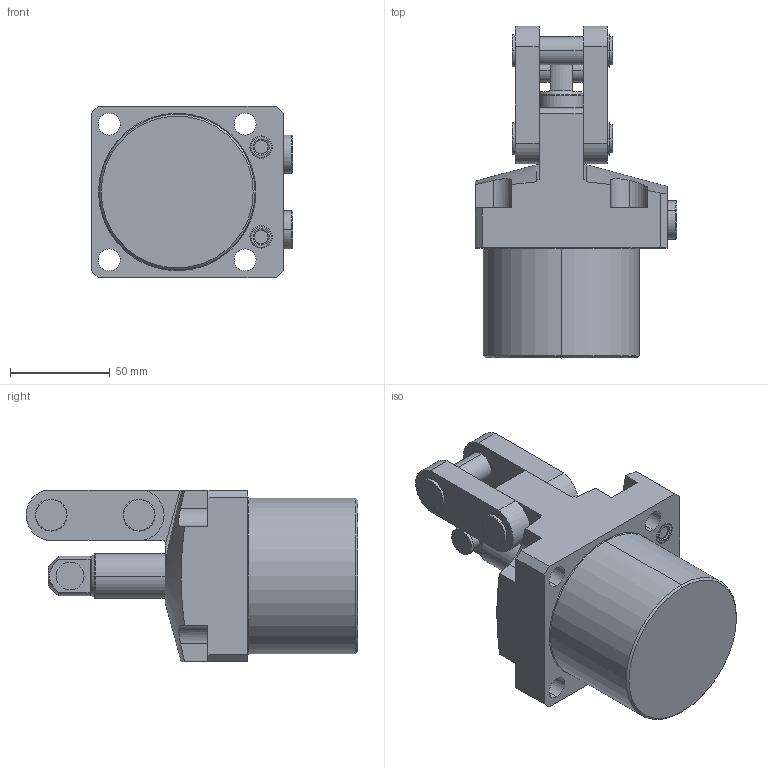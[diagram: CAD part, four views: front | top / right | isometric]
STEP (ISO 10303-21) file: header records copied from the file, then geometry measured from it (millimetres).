
FILE_DESCRIPTION(/* description */ (''),/* implementation_level */ '2;1');
FILE_NAME(/* name */ 'TPC16-L.stp',/* time_stamp */ '2025-01-05T10:27:21+08:00',/* author */ (''),/* organization */ (''),/* preprocessor_version */ 'ST-DEVELOPER v16.7',/* originating_system */ 'SIEMENS PLM Software NX 12.0',/* authorisation */ '');
FILE_SCHEMA (('AUTOMOTIVE_DESIGN { 1 0 10303 214 3 1 1 1 }'));
Length unit declared in the file: millimetre
Products named in the file (5): TPC16-L-01; TPC16-L-02; TPC16-L-03; TPC16-L-04; TPC16-L_stp
Assembly tree (5 placements, depth 2):
  TPC16-L_stp
    TPC16-L-04  x2
    TPC16-L-03
    TPC16-L-02
    TPC16-L-01
Bounding box: 100.8 x 166 x 86 mm (x, y, z)
Volume: 602682.4 mm3; surface area: 72405.1 mm2
Topology: 5 solids, 7 shells, 280 faces, 661 edges, 420 vertices
Faces by surface type: cylinder 116, plane 111, torus 34, cone 19
Entity records: 7803 total; most frequent: CARTESIAN_POINT 1461, DIRECTION 1401, ORIENTED_EDGE 1230, EDGE_CURVE 615, AXIS2_PLACEMENT_3D 558, VERTEX_POINT 392, EDGE_LOOP 301, CIRCLE 294
